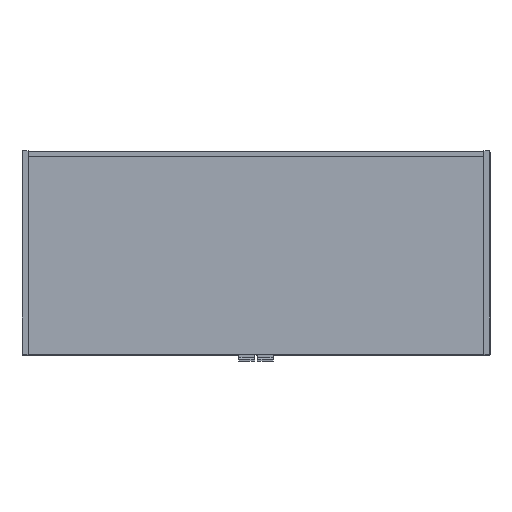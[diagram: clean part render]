
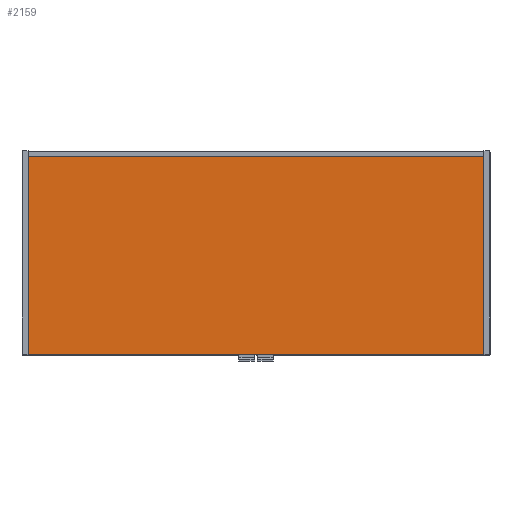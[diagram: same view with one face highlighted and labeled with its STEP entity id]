
A CAD part, top view. The second image highlights one B-rep face of the part: STEP entity #2159.
In plain terms, the highlighted planar face has unit normal (0, 0, 1).
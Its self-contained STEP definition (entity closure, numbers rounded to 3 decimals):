
#2159=ADVANCED_FACE('',(#3315),#18914,.T.);
#3315=FACE_OUTER_BOUND('',#4471,.T.);
#4471=EDGE_LOOP('',(#5719,#5720,#5721,#5722));
#5719=ORIENTED_EDGE('',*,*,#11887,.T.);
#5720=ORIENTED_EDGE('',*,*,#11891,.T.);
#5721=ORIENTED_EDGE('',*,*,#11894,.T.);
#5722=ORIENTED_EDGE('',*,*,#11896,.T.);
#11887=EDGE_CURVE('',#16902,#16901,#14980,.T.);
#11891=EDGE_CURVE('',#16901,#16904,#14984,.T.);
#11894=EDGE_CURVE('',#16904,#16906,#14987,.T.);
#11896=EDGE_CURVE('',#16906,#16902,#14989,.T.);
#14980=B_SPLINE_CURVE_WITH_KNOTS('',1,(#20531,#20532),.UNSPECIFIED.,.F.,
 .F.,(2,2),(0.,1119.),.UNSPECIFIED.);
#14984=B_SPLINE_CURVE_WITH_KNOTS('',1,(#20539,#20540),.UNSPECIFIED.,.F.,
 .F.,(2,2),(1119.,1604.),.UNSPECIFIED.);
#14987=B_SPLINE_CURVE_WITH_KNOTS('',1,(#20545,#20546),.UNSPECIFIED.,.F.,
 .F.,(2,2),(1604.,2723.),.UNSPECIFIED.);
#14989=B_SPLINE_CURVE_WITH_KNOTS('',1,(#20549,#20550),.UNSPECIFIED.,.F.,
 .F.,(2,2),(2723.,3208.),.UNSPECIFIED.);
#16901=VERTEX_POINT('',#20521);
#16902=VERTEX_POINT('',#20522);
#16904=VERTEX_POINT('',#20524);
#16906=VERTEX_POINT('',#20526);
#18914=PLANE('',#19459);
#19459=AXIS2_PLACEMENT_3D('',#20518,#19988,$);
#19988=DIRECTION('',(0.,0.,1.));
#20518=CARTESIAN_POINT('',(6253.015,7.942,1410.048));
#20521=CARTESIAN_POINT('',(7372.015,7.942,1410.048));
#20522=CARTESIAN_POINT('',(6253.015,7.942,1410.048));
#20524=CARTESIAN_POINT('',(7372.015,492.942,1410.048));
#20526=CARTESIAN_POINT('',(6253.015,492.942,1410.048));
#20531=CARTESIAN_POINT('',(6253.015,7.942,1410.048));
#20532=CARTESIAN_POINT('',(7372.015,7.942,1410.048));
#20539=CARTESIAN_POINT('',(7372.015,7.942,1410.048));
#20540=CARTESIAN_POINT('',(7372.015,492.942,1410.048));
#20545=CARTESIAN_POINT('',(7372.015,492.942,1410.048));
#20546=CARTESIAN_POINT('',(6253.015,492.942,1410.048));
#20549=CARTESIAN_POINT('',(6253.015,492.942,1410.048));
#20550=CARTESIAN_POINT('',(6253.015,7.942,1410.048));
